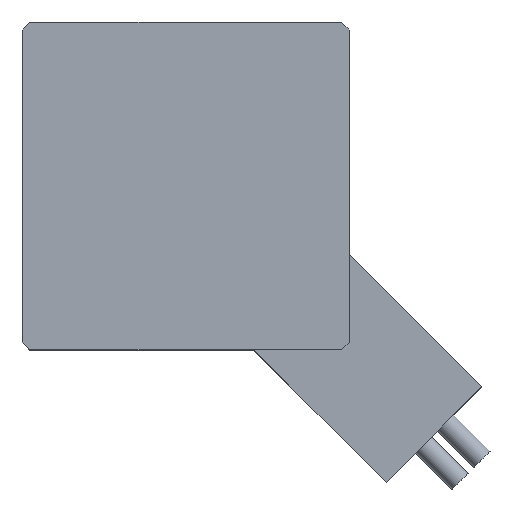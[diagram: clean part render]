
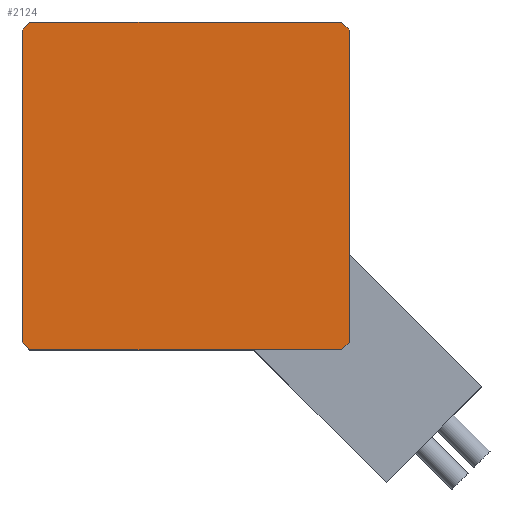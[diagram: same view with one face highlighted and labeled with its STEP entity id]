
A CAD part, top view. The second image highlights one B-rep face of the part: STEP entity #2124.
In plain terms, the highlighted planar face has unit normal (0, 0, 1).
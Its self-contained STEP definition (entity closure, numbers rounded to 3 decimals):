
#272=LINE('',#3394,#476);
#275=LINE('',#3399,#479);
#277=LINE('',#3403,#481);
#284=LINE('',#3418,#488);
#287=LINE('',#3424,#491);
#289=LINE('',#3427,#493);
#290=LINE('',#3429,#494);
#291=LINE('',#3430,#495);
#476=VECTOR('',#2721,1500.);
#479=VECTOR('',#2726,1500.);
#481=VECTOR('',#2730,1500.);
#488=VECTOR('',#2741,1500.);
#491=VECTOR('',#2746,1500.);
#493=VECTOR('',#2750,1500.);
#494=VECTOR('',#2753,1500.);
#495=VECTOR('',#2754,1500.);
#625=FACE_OUTER_BOUND('',#764,.T.);
#764=EDGE_LOOP('',(#1651,#1652,#1653,#1654,#1655,#1656,#1657,#1658));
#1004=VERTEX_POINT('',#3390);
#1005=VERTEX_POINT('',#3392);
#1006=VERTEX_POINT('',#3397);
#1007=VERTEX_POINT('',#3402);
#1012=VERTEX_POINT('',#3415);
#1013=VERTEX_POINT('',#3417);
#1014=VERTEX_POINT('',#3421);
#1015=VERTEX_POINT('',#3423);
#1227=EDGE_CURVE('',#1005,#1004,#272,.T.);
#1230=EDGE_CURVE('',#1005,#1006,#275,.T.);
#1232=EDGE_CURVE('',#1007,#1004,#277,.T.);
#1239=EDGE_CURVE('',#1013,#1012,#284,.T.);
#1242=EDGE_CURVE('',#1015,#1014,#287,.T.);
#1244=EDGE_CURVE('',#1007,#1012,#289,.T.);
#1245=EDGE_CURVE('',#1013,#1014,#290,.T.);
#1246=EDGE_CURVE('',#1015,#1006,#291,.T.);
#1651=ORIENTED_EDGE('',*,*,#1242,.T.);
#1652=ORIENTED_EDGE('',*,*,#1245,.F.);
#1653=ORIENTED_EDGE('',*,*,#1239,.T.);
#1654=ORIENTED_EDGE('',*,*,#1244,.F.);
#1655=ORIENTED_EDGE('',*,*,#1232,.T.);
#1656=ORIENTED_EDGE('',*,*,#1227,.F.);
#1657=ORIENTED_EDGE('',*,*,#1230,.T.);
#1658=ORIENTED_EDGE('',*,*,#1246,.F.);
#2038=PLANE('',#2341);
#2124=ADVANCED_FACE('',(#625),#2038,.T.);
#2341=AXIS2_PLACEMENT_3D('',#3428,#2751,#2752);
#2721=DIRECTION('',(-0.707,-0.707,0.));
#2726=DIRECTION('',(0.,1.,0.));
#2730=DIRECTION('',(1.,0.,0.));
#2741=DIRECTION('',(0.,-1.,0.));
#2746=DIRECTION('',(-1.,0.,0.));
#2750=DIRECTION('',(-0.707,0.707,0.));
#2751=DIRECTION('center_axis',(0.,0.,1.));
#2752=DIRECTION('ref_axis',(1.,0.,0.));
#2753=DIRECTION('',(0.707,0.707,0.));
#2754=DIRECTION('',(0.707,-0.707,0.));
#3390=CARTESIAN_POINT('',(9.65,-15.78,22.2));
#3392=CARTESIAN_POINT('',(10.25,-15.18,22.2));
#3394=CARTESIAN_POINT('',(9.95,-15.48,22.2));
#3397=CARTESIAN_POINT('',(10.25,9.12,22.2));
#3399=CARTESIAN_POINT('',(10.25,-3.03,22.2));
#3402=CARTESIAN_POINT('',(-14.65,-15.78,22.2));
#3403=CARTESIAN_POINT('',(-2.5,-15.78,22.2));
#3415=CARTESIAN_POINT('',(-15.25,-15.18,22.2));
#3417=CARTESIAN_POINT('',(-15.25,9.12,22.2));
#3418=CARTESIAN_POINT('',(-15.25,-3.03,22.2));
#3421=CARTESIAN_POINT('',(-14.65,9.72,22.2));
#3423=CARTESIAN_POINT('',(9.65,9.72,22.2));
#3424=CARTESIAN_POINT('',(-2.5,9.72,22.2));
#3427=CARTESIAN_POINT('',(-14.95,-15.48,22.2));
#3428=CARTESIAN_POINT('Origin',(-2.5,-3.03,22.2));
#3429=CARTESIAN_POINT('',(-14.95,9.42,22.2));
#3430=CARTESIAN_POINT('',(9.95,9.42,22.2));
